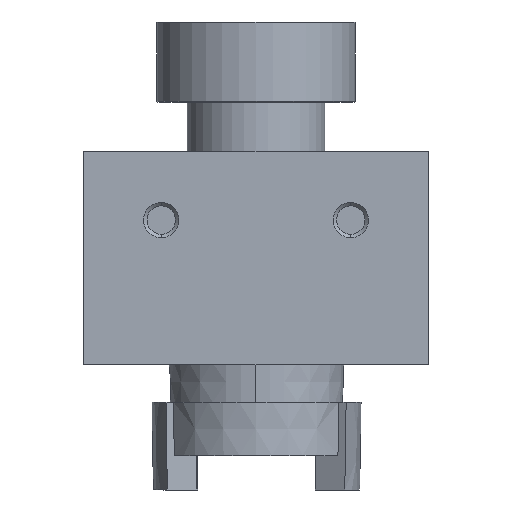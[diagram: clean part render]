
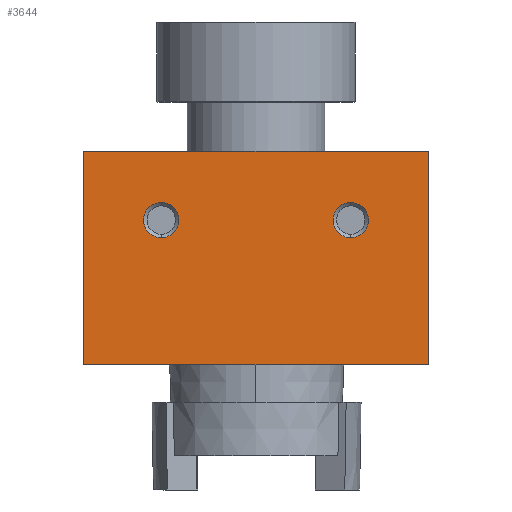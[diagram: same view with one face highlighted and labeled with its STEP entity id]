
A CAD part, left-side view. The second image highlights one B-rep face of the part: STEP entity #3644.
In plain terms, the highlighted planar face has unit normal (-1, 0, 0).
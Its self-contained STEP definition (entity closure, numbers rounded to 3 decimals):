
#20 = CARTESIAN_POINT ( 'NONE',  ( -20., -20., 24.8 ) ) ;
#24 = ORIENTED_EDGE ( 'NONE', *, *, #1508, .T. ) ;
#231 = DIRECTION ( 'NONE',  ( 0., 0., 1. ) ) ;
#271 = VERTEX_POINT ( 'NONE', #699 ) ;
#304 = CIRCLE ( 'NONE', #563, 2.05 ) ;
#306 = VECTOR ( 'NONE', #3118, 1000. ) ;
#323 = DIRECTION ( 'NONE',  ( 0., 0., -1. ) ) ;
#331 = AXIS2_PLACEMENT_3D ( 'NONE', #3236, #2308, #448 ) ;
#448 = DIRECTION ( 'NONE',  ( 0., 0., 1. ) ) ;
#480 = CARTESIAN_POINT ( 'NONE',  ( -20., -20., 24.8 ) ) ;
#515 = EDGE_CURVE ( 'NONE', #271, #668, #1900, .T. ) ;
#563 = AXIS2_PLACEMENT_3D ( 'NONE', #2421, #3649, #231 ) ;
#607 = CARTESIAN_POINT ( 'NONE',  ( -20., -20., 24.8 ) ) ;
#621 = DIRECTION ( 'NONE',  ( -1., 0., 0. ) ) ;
#645 = EDGE_CURVE ( 'NONE', #2188, #2122, #3325, .T. ) ;
#668 = VERTEX_POINT ( 'NONE', #3095 ) ;
#688 = EDGE_LOOP ( 'NONE', ( #24, #3107 ) ) ;
#699 = CARTESIAN_POINT ( 'NONE',  ( -20., 20., 24.8 ) ) ;
#798 = VERTEX_POINT ( 'NONE', #480 ) ;
#828 = VECTOR ( 'NONE', #1813, 1000. ) ;
#1185 = ORIENTED_EDGE ( 'NONE', *, *, #515, .T. ) ;
#1229 = ORIENTED_EDGE ( 'NONE', *, *, #1725, .T. ) ;
#1349 = CIRCLE ( 'NONE', #3687, 2.05 ) ;
#1505 = DIRECTION ( 'NONE',  ( 0., 1., 0. ) ) ;
#1508 = EDGE_CURVE ( 'NONE', #2127, #3841, #1795, .T. ) ;
#1548 = FACE_OUTER_BOUND ( 'NONE', #2597, .T. ) ;
#1590 = DIRECTION ( 'NONE',  ( 1., 0., 0. ) ) ;
#1725 = EDGE_CURVE ( 'NONE', #798, #271, #3396, .T. ) ;
#1756 = EDGE_CURVE ( 'NONE', #2122, #2188, #1349, .T. ) ;
#1766 = CARTESIAN_POINT ( 'NONE',  ( -20., -11., 18.85 ) ) ;
#1777 = VECTOR ( 'NONE', #1505, 1000. ) ;
#1795 = CIRCLE ( 'NONE', #3153, 2.05 ) ;
#1813 = DIRECTION ( 'NONE',  ( 0., 1., 0. ) ) ;
#1861 = VECTOR ( 'NONE', #323, 1000. ) ;
#1900 = LINE ( 'NONE', #3105, #1861 ) ;
#1911 = CARTESIAN_POINT ( 'NONE',  ( -20., 11., 14.75 ) ) ;
#1965 = VERTEX_POINT ( 'NONE', #2984 ) ;
#2015 = EDGE_CURVE ( 'NONE', #3841, #2127, #304, .T. ) ;
#2025 = ORIENTED_EDGE ( 'NONE', *, *, #2789, .F. ) ;
#2122 = VERTEX_POINT ( 'NONE', #2728 ) ;
#2127 = VERTEX_POINT ( 'NONE', #1766 ) ;
#2188 = VERTEX_POINT ( 'NONE', #1911 ) ;
#2226 = FACE_BOUND ( 'NONE', #3411, .T. ) ;
#2252 = ORIENTED_EDGE ( 'NONE', *, *, #3616, .F. ) ;
#2276 = ORIENTED_EDGE ( 'NONE', *, *, #1756, .T. ) ;
#2308 = DIRECTION ( 'NONE',  ( 1., 0., 0. ) ) ;
#2322 = CARTESIAN_POINT ( 'NONE',  ( -20., -20., 0. ) ) ;
#2352 = CARTESIAN_POINT ( 'NONE',  ( -20., -11., 14.75 ) ) ;
#2421 = CARTESIAN_POINT ( 'NONE',  ( -20., -11., 16.8 ) ) ;
#2536 = CARTESIAN_POINT ( 'NONE',  ( -20., -11., 16.8 ) ) ;
#2597 = EDGE_LOOP ( 'NONE', ( #2025, #2252, #1229, #1185 ) ) ;
#2728 = CARTESIAN_POINT ( 'NONE',  ( -20., 11., 18.85 ) ) ;
#2753 = LINE ( 'NONE', #20, #306 ) ;
#2789 = EDGE_CURVE ( 'NONE', #1965, #668, #3653, .T. ) ;
#2796 = PLANE ( 'NONE',  #3939 ) ;
#2823 = DIRECTION ( 'NONE',  ( 0., 0., 1. ) ) ;
#2984 = CARTESIAN_POINT ( 'NONE',  ( -20., -20., 0. ) ) ;
#3010 = CARTESIAN_POINT ( 'NONE',  ( -20., 11., 16.8 ) ) ;
#3083 = DIRECTION ( 'NONE',  ( 1., 0., 0. ) ) ;
#3095 = CARTESIAN_POINT ( 'NONE',  ( -20., 20., 0. ) ) ;
#3105 = CARTESIAN_POINT ( 'NONE',  ( -20., 20., 24.8 ) ) ;
#3107 = ORIENTED_EDGE ( 'NONE', *, *, #2015, .T. ) ;
#3118 = DIRECTION ( 'NONE',  ( 0., 0., -1. ) ) ;
#3138 = FACE_BOUND ( 'NONE', #688, .T. ) ;
#3153 = AXIS2_PLACEMENT_3D ( 'NONE', #2536, #1590, #2823 ) ;
#3236 = CARTESIAN_POINT ( 'NONE',  ( -20., 11., 16.8 ) ) ;
#3325 = CIRCLE ( 'NONE', #331, 2.05 ) ;
#3362 = CARTESIAN_POINT ( 'NONE',  ( -20., -20., 24.8 ) ) ;
#3396 = LINE ( 'NONE', #3362, #828 ) ;
#3411 = EDGE_LOOP ( 'NONE', ( #2276, #3898 ) ) ;
#3474 = DIRECTION ( 'NONE',  ( 0., 0., 1. ) ) ;
#3616 = EDGE_CURVE ( 'NONE', #798, #1965, #2753, .T. ) ;
#3644 = ADVANCED_FACE ( 'NONE', ( #2226, #3138, #1548 ), #2796, .T. ) ;
#3645 = DIRECTION ( 'NONE',  ( 0., 0., 1. ) ) ;
#3649 = DIRECTION ( 'NONE',  ( 1., 0., 0. ) ) ;
#3653 = LINE ( 'NONE', #2322, #1777 ) ;
#3687 = AXIS2_PLACEMENT_3D ( 'NONE', #3010, #3083, #3645 ) ;
#3841 = VERTEX_POINT ( 'NONE', #2352 ) ;
#3898 = ORIENTED_EDGE ( 'NONE', *, *, #645, .T. ) ;
#3939 = AXIS2_PLACEMENT_3D ( 'NONE', #607, #621, #3474 ) ;
